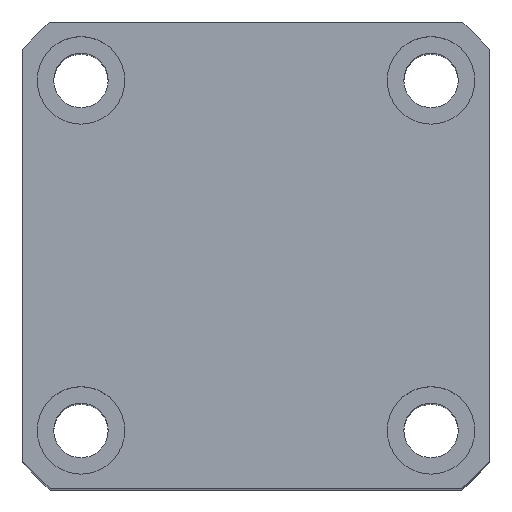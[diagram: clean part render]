
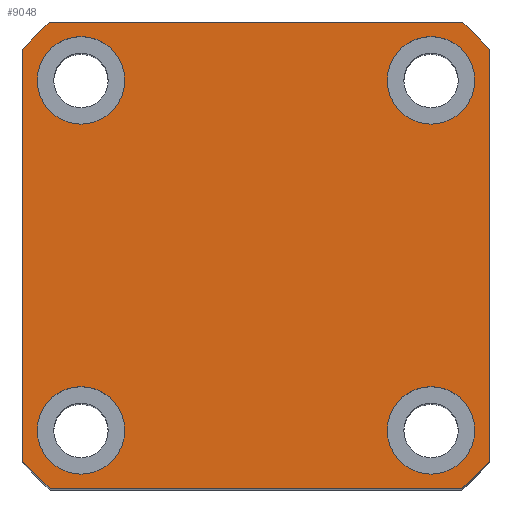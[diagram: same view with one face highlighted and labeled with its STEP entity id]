
A CAD part, top view. The second image highlights one B-rep face of the part: STEP entity #9048.
In plain terms, the highlighted planar face has unit normal (0, 0, 1) as drawn and (1, 0, 0) by its records, which use the part's own axes.
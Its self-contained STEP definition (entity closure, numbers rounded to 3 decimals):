
#103 = FACE_BOUND ( 'NONE', #809, .T. ) ;
#196 = EDGE_CURVE ( 'NONE', #6957, #10512, #8846, .T. ) ;
#206 = CARTESIAN_POINT ( 'NONE',  ( 75., 18., 18. ) ) ;
#237 = CARTESIAN_POINT ( 'NONE',  ( 75., -18., -18. ) ) ;
#370 = CARTESIAN_POINT ( 'NONE',  ( 75., -21.166, -24. ) ) ;
#385 = CARTESIAN_POINT ( 'NONE',  ( 75., -24., -21.166 ) ) ;
#454 = EDGE_CURVE ( 'NONE', #9624, #6445, #9989, .T. ) ;
#475 = CIRCLE ( 'NONE', #9097, 4.5 ) ;
#527 = EDGE_LOOP ( 'NONE', ( #1554, #4103, #6381, #7212, #7049, #922, #2073, #9619 ) ) ;
#539 = CARTESIAN_POINT ( 'NONE',  ( 75., -18., -13.5 ) ) ;
#571 = CIRCLE ( 'NONE', #2382, 32. ) ;
#585 = DIRECTION ( 'NONE',  ( 0., 0., -1. ) ) ;
#663 = DIRECTION ( 'NONE',  ( 0., 0., -1. ) ) ;
#707 = DIRECTION ( 'NONE',  ( 0., 0., -1. ) ) ;
#809 = EDGE_LOOP ( 'NONE', ( #7393, #3754 ) ) ;
#922 = ORIENTED_EDGE ( 'NONE', *, *, #5368, .T. ) ;
#1135 = CARTESIAN_POINT ( 'NONE',  ( 75., -18., 18. ) ) ;
#1480 = CARTESIAN_POINT ( 'NONE',  ( 75., -18., -22.5 ) ) ;
#1554 = ORIENTED_EDGE ( 'NONE', *, *, #5783, .T. ) ;
#1636 = EDGE_CURVE ( 'NONE', #4115, #10629, #3864, .T. ) ;
#1712 = CARTESIAN_POINT ( 'NONE',  ( 75., 24., 24. ) ) ;
#1724 = CARTESIAN_POINT ( 'NONE',  ( 75., -24., 24. ) ) ;
#1911 = CARTESIAN_POINT ( 'NONE',  ( 75., -21.166, 24. ) ) ;
#1976 = DIRECTION ( 'NONE',  ( 0., 0., -1. ) ) ;
#2025 = ORIENTED_EDGE ( 'NONE', *, *, #8724, .F. ) ;
#2073 = ORIENTED_EDGE ( 'NONE', *, *, #10340, .T. ) ;
#2089 = DIRECTION ( 'NONE',  ( 1., 0., 0. ) ) ;
#2135 = CARTESIAN_POINT ( 'NONE',  ( 75., 24., -21.166 ) ) ;
#2190 = CIRCLE ( 'NONE', #4498, 32. ) ;
#2225 = ORIENTED_EDGE ( 'NONE', *, *, #1636, .F. ) ;
#2342 = FACE_BOUND ( 'NONE', #6532, .T. ) ;
#2382 = AXIS2_PLACEMENT_3D ( 'NONE', #7850, #8020, #663 ) ;
#2773 = EDGE_CURVE ( 'NONE', #7480, #9877, #571, .T. ) ;
#2840 = DIRECTION ( 'NONE',  ( 1., 0., 0. ) ) ;
#2979 = DIRECTION ( 'NONE',  ( 0., 0., -1. ) ) ;
#2990 = DIRECTION ( 'NONE',  ( 1., 0., 0. ) ) ;
#3010 = CARTESIAN_POINT ( 'NONE',  ( 75., 18., -18. ) ) ;
#3075 = DIRECTION ( 'NONE',  ( 0., 0., -1. ) ) ;
#3104 = DIRECTION ( 'NONE',  ( 1., 0., 0. ) ) ;
#3136 = CARTESIAN_POINT ( 'NONE',  ( 75., -18., 18. ) ) ;
#3464 = CARTESIAN_POINT ( 'NONE',  ( 75., 21.166, 24. ) ) ;
#3508 = LINE ( 'NONE', #9074, #9570 ) ;
#3565 = DIRECTION ( 'NONE',  ( 0., 1., 0. ) ) ;
#3621 = EDGE_CURVE ( 'NONE', #10512, #6957, #5041, .T. ) ;
#3638 = CARTESIAN_POINT ( 'NONE',  ( 75., -18., 22.5 ) ) ;
#3684 = CARTESIAN_POINT ( 'NONE',  ( 75., 24., 21.166 ) ) ;
#3712 = VERTEX_POINT ( 'NONE', #1911 ) ;
#3753 = DIRECTION ( 'NONE',  ( 0., 0., -1. ) ) ;
#3754 = ORIENTED_EDGE ( 'NONE', *, *, #3621, .F. ) ;
#3786 = DIRECTION ( 'NONE',  ( 1., 0., 0. ) ) ;
#3826 = CARTESIAN_POINT ( 'NONE',  ( 75., 0., 0. ) ) ;
#3864 = CIRCLE ( 'NONE', #9578, 4.5 ) ;
#3952 = DIRECTION ( 'NONE',  ( 1., 0., 0. ) ) ;
#4103 = ORIENTED_EDGE ( 'NONE', *, *, #4528, .T. ) ;
#4106 = VERTEX_POINT ( 'NONE', #5864 ) ;
#4115 = VERTEX_POINT ( 'NONE', #9096 ) ;
#4179 = EDGE_CURVE ( 'NONE', #4106, #6274, #8267, .T. ) ;
#4206 = DIRECTION ( 'NONE',  ( 0., 0., -1. ) ) ;
#4246 = DIRECTION ( 'NONE',  ( 1., 0., 0. ) ) ;
#4356 = DIRECTION ( 'NONE',  ( 0., 0., -1. ) ) ;
#4379 = DIRECTION ( 'NONE',  ( 1., 0., 0. ) ) ;
#4498 = AXIS2_PLACEMENT_3D ( 'NONE', #7050, #2089, #7895 ) ;
#4528 = EDGE_CURVE ( 'NONE', #6569, #6357, #10037, .T. ) ;
#4700 = ORIENTED_EDGE ( 'NONE', *, *, #4179, .F. ) ;
#4994 = DIRECTION ( 'NONE',  ( 0., 0., 1. ) ) ;
#5017 = CARTESIAN_POINT ( 'NONE',  ( 75., 0., 0. ) ) ;
#5022 = VECTOR ( 'NONE', #8365, 1000. ) ;
#5041 = CIRCLE ( 'NONE', #6965, 4.5 ) ;
#5100 = CARTESIAN_POINT ( 'NONE',  ( 75., 18., -22.5 ) ) ;
#5150 = AXIS2_PLACEMENT_3D ( 'NONE', #7632, #9280, #4356 ) ;
#5225 = VECTOR ( 'NONE', #9892, 1000. ) ;
#5368 = EDGE_CURVE ( 'NONE', #3712, #6609, #10026, .T. ) ;
#5477 = AXIS2_PLACEMENT_3D ( 'NONE', #5017, #4246, #4206 ) ;
#5600 = CIRCLE ( 'NONE', #6423, 4.5 ) ;
#5774 = DIRECTION ( 'NONE',  ( 1., 0., 0. ) ) ;
#5783 = EDGE_CURVE ( 'NONE', #8089, #6569, #10632, .T. ) ;
#5785 = ORIENTED_EDGE ( 'NONE', *, *, #454, .F. ) ;
#5864 = CARTESIAN_POINT ( 'NONE',  ( 75., -18., 13.5 ) ) ;
#5973 = AXIS2_PLACEMENT_3D ( 'NONE', #8897, #3952, #9704 ) ;
#6056 = VECTOR ( 'NONE', #3565, 1000. ) ;
#6059 = EDGE_CURVE ( 'NONE', #6445, #9624, #7193, .T. ) ;
#6131 = CARTESIAN_POINT ( 'NONE',  ( 75., 18., -18. ) ) ;
#6162 = ORIENTED_EDGE ( 'NONE', *, *, #6059, .F. ) ;
#6274 = VERTEX_POINT ( 'NONE', #3638 ) ;
#6327 = DIRECTION ( 'NONE',  ( 0., 0., -1. ) ) ;
#6357 = VERTEX_POINT ( 'NONE', #2135 ) ;
#6381 = ORIENTED_EDGE ( 'NONE', *, *, #10287, .T. ) ;
#6423 = AXIS2_PLACEMENT_3D ( 'NONE', #1135, #6945, #1976 ) ;
#6445 = VERTEX_POINT ( 'NONE', #539 ) ;
#6482 = FACE_OUTER_BOUND ( 'NONE', #527, .T. ) ;
#6532 = EDGE_LOOP ( 'NONE', ( #5785, #6162 ) ) ;
#6540 = EDGE_LOOP ( 'NONE', ( #4700, #2025 ) ) ;
#6569 = VERTEX_POINT ( 'NONE', #10373 ) ;
#6609 = VERTEX_POINT ( 'NONE', #10438 ) ;
#6706 = AXIS2_PLACEMENT_3D ( 'NONE', #3826, #3786, #3753 ) ;
#6753 = FACE_BOUND ( 'NONE', #6540, .T. ) ;
#6945 = DIRECTION ( 'NONE',  ( 1., 0., 0. ) ) ;
#6957 = VERTEX_POINT ( 'NONE', #5100 ) ;
#6965 = AXIS2_PLACEMENT_3D ( 'NONE', #3010, #2990, #2979 ) ;
#7049 = ORIENTED_EDGE ( 'NONE', *, *, #7148, .T. ) ;
#7050 = CARTESIAN_POINT ( 'NONE',  ( 75., 0., 0. ) ) ;
#7093 = CARTESIAN_POINT ( 'NONE',  ( 75., 18., 13.5 ) ) ;
#7148 = EDGE_CURVE ( 'NONE', #9877, #3712, #9620, .T. ) ;
#7193 = CIRCLE ( 'NONE', #5973, 4.5 ) ;
#7212 = ORIENTED_EDGE ( 'NONE', *, *, #2773, .T. ) ;
#7393 = ORIENTED_EDGE ( 'NONE', *, *, #196, .F. ) ;
#7480 = VERTEX_POINT ( 'NONE', #3684 ) ;
#7632 = CARTESIAN_POINT ( 'NONE',  ( 75., 0., 0. ) ) ;
#7797 = AXIS2_PLACEMENT_3D ( 'NONE', #237, #5774, #585 ) ;
#7850 = CARTESIAN_POINT ( 'NONE',  ( 75., 0., 0. ) ) ;
#7878 = AXIS2_PLACEMENT_3D ( 'NONE', #3136, #3104, #3075 ) ;
#7895 = DIRECTION ( 'NONE',  ( 0., 0., -1. ) ) ;
#8020 = DIRECTION ( 'NONE',  ( 1., 0., 0. ) ) ;
#8089 = VERTEX_POINT ( 'NONE', #370 ) ;
#8267 = CIRCLE ( 'NONE', #7878, 4.5 ) ;
#8365 = DIRECTION ( 'NONE',  ( 0., -1., 0. ) ) ;
#8644 = CARTESIAN_POINT ( 'NONE',  ( 75., 18., -13.5 ) ) ;
#8682 = FACE_BOUND ( 'NONE', #10318, .T. ) ;
#8724 = EDGE_CURVE ( 'NONE', #6274, #4106, #5600, .T. ) ;
#8846 = CIRCLE ( 'NONE', #9626, 4.5 ) ;
#8864 = ORIENTED_EDGE ( 'NONE', *, *, #10399, .F. ) ;
#8897 = CARTESIAN_POINT ( 'NONE',  ( 75., -18., -18. ) ) ;
#9048 = ADVANCED_FACE ( 'NONE', ( #2342, #6753, #103, #8682, #6482 ), #9090, .T. ) ;
#9074 = CARTESIAN_POINT ( 'NONE',  ( 75., 24., 24. ) ) ;
#9090 = PLANE ( 'NONE',  #5150 ) ;
#9096 = CARTESIAN_POINT ( 'NONE',  ( 75., 18., 22.5 ) ) ;
#9097 = AXIS2_PLACEMENT_3D ( 'NONE', #9302, #4379, #10106 ) ;
#9280 = DIRECTION ( 'NONE',  ( 1., 0., 0. ) ) ;
#9302 = CARTESIAN_POINT ( 'NONE',  ( 75., 18., 18. ) ) ;
#9328 = LINE ( 'NONE', #1724, #5225 ) ;
#9350 = CARTESIAN_POINT ( 'NONE',  ( 75., 24., -24. ) ) ;
#9471 = VERTEX_POINT ( 'NONE', #385 ) ;
#9499 = DIRECTION ( 'NONE',  ( 1., 0., 0. ) ) ;
#9570 = VECTOR ( 'NONE', #4994, 1000. ) ;
#9578 = AXIS2_PLACEMENT_3D ( 'NONE', #206, #2840, #707 ) ;
#9619 = ORIENTED_EDGE ( 'NONE', *, *, #10604, .T. ) ;
#9620 = LINE ( 'NONE', #1712, #5022 ) ;
#9624 = VERTEX_POINT ( 'NONE', #1480 ) ;
#9626 = AXIS2_PLACEMENT_3D ( 'NONE', #6131, #9499, #6327 ) ;
#9704 = DIRECTION ( 'NONE',  ( 0., 0., -1. ) ) ;
#9877 = VERTEX_POINT ( 'NONE', #3464 ) ;
#9892 = DIRECTION ( 'NONE',  ( 0., 0., -1. ) ) ;
#9989 = CIRCLE ( 'NONE', #7797, 4.5 ) ;
#10026 = CIRCLE ( 'NONE', #6706, 32. ) ;
#10037 = CIRCLE ( 'NONE', #5477, 32. ) ;
#10106 = DIRECTION ( 'NONE',  ( 0., 0., -1. ) ) ;
#10287 = EDGE_CURVE ( 'NONE', #6357, #7480, #3508, .T. ) ;
#10318 = EDGE_LOOP ( 'NONE', ( #8864, #2225 ) ) ;
#10340 = EDGE_CURVE ( 'NONE', #6609, #9471, #9328, .T. ) ;
#10373 = CARTESIAN_POINT ( 'NONE',  ( 75., 21.166, -24. ) ) ;
#10399 = EDGE_CURVE ( 'NONE', #10629, #4115, #475, .T. ) ;
#10438 = CARTESIAN_POINT ( 'NONE',  ( 75., -24., 21.166 ) ) ;
#10512 = VERTEX_POINT ( 'NONE', #8644 ) ;
#10604 = EDGE_CURVE ( 'NONE', #9471, #8089, #2190, .T. ) ;
#10629 = VERTEX_POINT ( 'NONE', #7093 ) ;
#10632 = LINE ( 'NONE', #9350, #6056 ) ;
